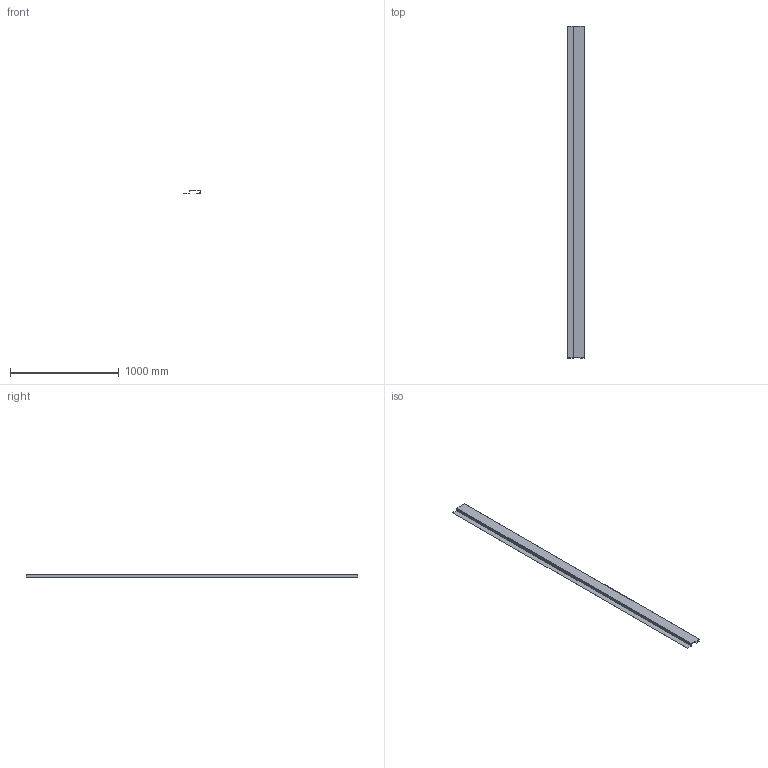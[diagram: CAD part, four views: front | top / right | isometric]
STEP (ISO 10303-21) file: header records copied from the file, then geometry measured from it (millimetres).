
FILE_DESCRIPTION(/* description */ (''),/* implementation_level */ '2;1');
FILE_NAME(/* name */ 'C:\Users\Utilisateur\Mac Metal\Site de communication - Documents\Ingénierie\Développement de produits\Board and Batten\Dessins\Moulures\M17H\Moulure transition brique.stp',/* time_stamp */ '2022-06-29T16:01:36-04:00',/* author */ ('Utilisateur'),/* organization */ (''),/* preprocessor_version */ 'ST-DEVELOPER v18.1',/* originating_system */ 'Autodesk Inventor 2021',/* authorisation */ '');
FILE_SCHEMA (('AUTOMOTIVE_DESIGN { 1 0 10303 214 3 1 1 }'));
Length unit declared in the file: inch
Products named in the file (1): Moulure transition brique
Bounding box: 153.96 x 3048 x 25.91 mm (x, y, z)
Volume: 413758 mm3; surface area: 1635440.1 mm2
Topology: 2 solids, 2 shells, 36 faces, 96 edges, 64 vertices
Faces by surface type: plane 24, cylinder 12
Entity records: 1166 total; most frequent: CARTESIAN_POINT 197, DIRECTION 194, ORIENTED_EDGE 192, EDGE_CURVE 96, LINE 72, VECTOR 72, VERTEX_POINT 64, AXIS2_PLACEMENT_3D 61
